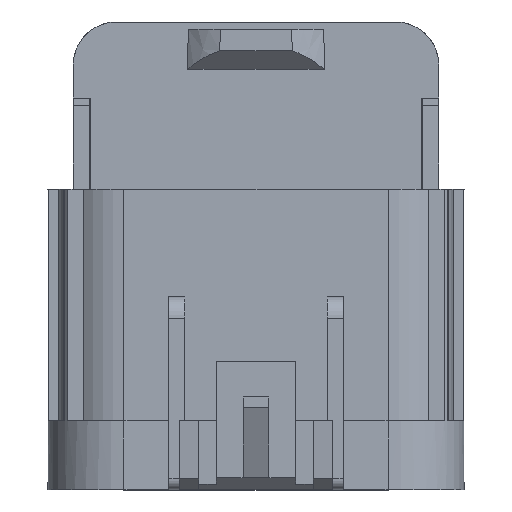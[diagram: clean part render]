
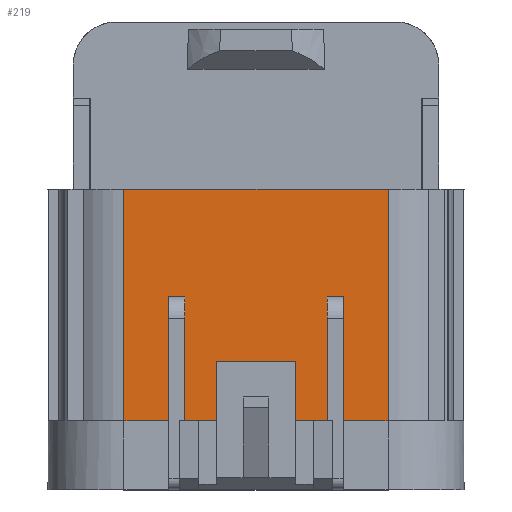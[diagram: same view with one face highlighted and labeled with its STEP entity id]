
A CAD part, top view. The second image highlights one B-rep face of the part: STEP entity #219.
In plain terms, the highlighted planar face has unit normal (0, 0, 1).
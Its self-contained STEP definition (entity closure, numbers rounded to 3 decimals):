
#219=ADVANCED_FACE('',(#699),#483,.T.);
#483=PLANE('',#5084);
#699=FACE_OUTER_BOUND('',#968,.T.);
#968=EDGE_LOOP('',(#1399,#1400,#1401,#1402,#1403,#1404,#1405,#1406,#1407,
#1408,#1409,#1410,#1411,#1412,#1413,#1414));
#1399=ORIENTED_EDGE('',*,*,#3280,.F.);
#1400=ORIENTED_EDGE('',*,*,#3241,.F.);
#1401=ORIENTED_EDGE('',*,*,#3281,.T.);
#1402=ORIENTED_EDGE('',*,*,#3282,.F.);
#1403=ORIENTED_EDGE('',*,*,#3283,.T.);
#1404=ORIENTED_EDGE('',*,*,#3284,.T.);
#1405=ORIENTED_EDGE('',*,*,#3285,.F.);
#1406=ORIENTED_EDGE('',*,*,#3286,.F.);
#1407=ORIENTED_EDGE('',*,*,#3287,.F.);
#1408=ORIENTED_EDGE('',*,*,#3288,.F.);
#1409=ORIENTED_EDGE('',*,*,#3289,.T.);
#1410=ORIENTED_EDGE('',*,*,#3290,.F.);
#1411=ORIENTED_EDGE('',*,*,#3291,.T.);
#1412=ORIENTED_EDGE('',*,*,#3292,.T.);
#1413=ORIENTED_EDGE('',*,*,#3293,.T.);
#1414=ORIENTED_EDGE('',*,*,#3294,.F.);
#2777=VERTEX_POINT('',#6996);
#2778=VERTEX_POINT('',#6998);
#2810=VERTEX_POINT('',#7072);
#2811=VERTEX_POINT('',#7074);
#2812=VERTEX_POINT('',#7076);
#2813=VERTEX_POINT('',#7078);
#2814=VERTEX_POINT('',#7080);
#2815=VERTEX_POINT('',#7082);
#2816=VERTEX_POINT('',#7084);
#2817=VERTEX_POINT('',#7086);
#2818=VERTEX_POINT('',#7088);
#2819=VERTEX_POINT('',#7090);
#2820=VERTEX_POINT('',#7092);
#2821=VERTEX_POINT('',#7094);
#2822=VERTEX_POINT('',#7096);
#2823=VERTEX_POINT('',#7098);
#3241=EDGE_CURVE('',#2777,#2778,#3929,.T.);
#3280=EDGE_CURVE('',#2778,#2810,#3956,.T.);
#3281=EDGE_CURVE('',#2777,#2811,#3957,.T.);
#3282=EDGE_CURVE('',#2812,#2811,#3958,.T.);
#3283=EDGE_CURVE('',#2812,#2813,#3959,.T.);
#3284=EDGE_CURVE('',#2813,#2814,#3960,.T.);
#3285=EDGE_CURVE('',#2815,#2814,#3961,.T.);
#3286=EDGE_CURVE('',#2816,#2815,#3962,.T.);
#3287=EDGE_CURVE('',#2817,#2816,#3963,.T.);
#3288=EDGE_CURVE('',#2818,#2817,#3964,.T.);
#3289=EDGE_CURVE('',#2818,#2819,#3965,.T.);
#3290=EDGE_CURVE('',#2820,#2819,#3966,.T.);
#3291=EDGE_CURVE('',#2820,#2821,#3967,.T.);
#3292=EDGE_CURVE('',#2821,#2822,#3968,.T.);
#3293=EDGE_CURVE('',#2822,#2823,#3969,.T.);
#3294=EDGE_CURVE('',#2810,#2823,#3970,.T.);
#3929=LINE('',#6997,#4531);
#3956=LINE('',#7071,#4558);
#3957=LINE('',#7073,#4559);
#3958=LINE('',#7075,#4560);
#3959=LINE('',#7077,#4561);
#3960=LINE('',#7079,#4562);
#3961=LINE('',#7081,#4563);
#3962=LINE('',#7083,#4564);
#3963=LINE('',#7085,#4565);
#3964=LINE('',#7087,#4566);
#3965=LINE('',#7089,#4567);
#3966=LINE('',#7091,#4568);
#3967=LINE('',#7093,#4569);
#3968=LINE('',#7095,#4570);
#3969=LINE('',#7097,#4571);
#3970=LINE('',#7099,#4572);
#4531=VECTOR('',#5561,1.);
#4558=VECTOR('',#5618,1.);
#4559=VECTOR('',#5619,1.);
#4560=VECTOR('',#5620,1.);
#4561=VECTOR('',#5621,1.);
#4562=VECTOR('',#5622,1.);
#4563=VECTOR('',#5623,1.);
#4564=VECTOR('',#5624,1.);
#4565=VECTOR('',#5625,1.);
#4566=VECTOR('',#5626,1.);
#4567=VECTOR('',#5627,1.);
#4568=VECTOR('',#5628,1.);
#4569=VECTOR('',#5629,1.);
#4570=VECTOR('',#5630,1.);
#4571=VECTOR('',#5631,1.);
#4572=VECTOR('',#5632,1.);
#5084=AXIS2_PLACEMENT_3D('',#7100,#5633,#5634);
#5561=DIRECTION('',(1.,0.,0.));
#5618=DIRECTION('',(0.,-1.,0.));
#5619=DIRECTION('',(0.,-1.,0.));
#5620=DIRECTION('',(-1.,0.,0.));
#5621=DIRECTION('',(0.,1.,0.));
#5622=DIRECTION('',(1.,0.,0.));
#5623=DIRECTION('',(0.,1.,0.));
#5624=DIRECTION('',(-1.,0.,0.));
#5625=DIRECTION('',(0.,-1.,0.));
#5626=DIRECTION('',(-1.,0.,0.));
#5627=DIRECTION('',(0.,-1.,0.));
#5628=DIRECTION('',(-1.,0.,0.));
#5629=DIRECTION('',(0.,1.,0.));
#5630=DIRECTION('',(1.,0.,0.));
#5631=DIRECTION('',(0.,-1.,0.));
#5632=DIRECTION('',(-1.,0.,0.));
#5633=DIRECTION('',(0.,0.,1.));
#5634=DIRECTION('',(0.,-1.,0.));
#6996=CARTESIAN_POINT('',(-23.5,-13.3,5.295));
#6997=CARTESIAN_POINT('',(1.,-13.3,5.295));
#6998=CARTESIAN_POINT('',(1.,-13.3,5.295));
#7071=CARTESIAN_POINT('',(1.,-189.895,5.295));
#7072=CARTESIAN_POINT('',(1.,-34.8,5.295));
#7073=CARTESIAN_POINT('',(-23.5,-34.8,5.295));
#7074=CARTESIAN_POINT('',(-23.5,-34.8,5.295));
#7075=CARTESIAN_POINT('',(-3.6,-34.8,5.295));
#7076=CARTESIAN_POINT('',(-19.35,-34.8,5.295));
#7077=CARTESIAN_POINT('',(-19.35,-34.8,5.295));
#7078=CARTESIAN_POINT('',(-19.35,-23.3,5.295));
#7079=CARTESIAN_POINT('',(-21.,-23.3,5.295));
#7080=CARTESIAN_POINT('',(-17.85,-23.3,5.295));
#7081=CARTESIAN_POINT('',(-17.85,-23.3,5.295));
#7082=CARTESIAN_POINT('',(-17.85,-34.8,5.295));
#7083=CARTESIAN_POINT('',(-3.6,-34.8,5.295));
#7084=CARTESIAN_POINT('',(-14.95,-34.8,5.295));
#7085=CARTESIAN_POINT('',(-14.95,-32.3,5.295));
#7086=CARTESIAN_POINT('',(-14.95,-29.3,5.295));
#7087=CARTESIAN_POINT('',(-11.25,-29.3,5.295));
#7088=CARTESIAN_POINT('',(-7.55,-29.3,5.295));
#7089=CARTESIAN_POINT('',(-7.55,-29.3,5.295));
#7090=CARTESIAN_POINT('',(-7.55,-34.8,5.295));
#7091=CARTESIAN_POINT('',(-3.6,-34.8,5.295));
#7092=CARTESIAN_POINT('',(-4.65,-34.8,5.295));
#7093=CARTESIAN_POINT('',(-4.65,-34.8,5.295));
#7094=CARTESIAN_POINT('',(-4.65,-23.3,5.295));
#7095=CARTESIAN_POINT('',(-21.1,-23.3,5.295));
#7096=CARTESIAN_POINT('',(-3.15,-23.3,5.295));
#7097=CARTESIAN_POINT('',(-3.15,-23.3,5.295));
#7098=CARTESIAN_POINT('',(-3.15,-34.8,5.295));
#7099=CARTESIAN_POINT('',(-3.6,-34.8,5.295));
#7100=CARTESIAN_POINT('',(-3.5,-34.8,5.295));
